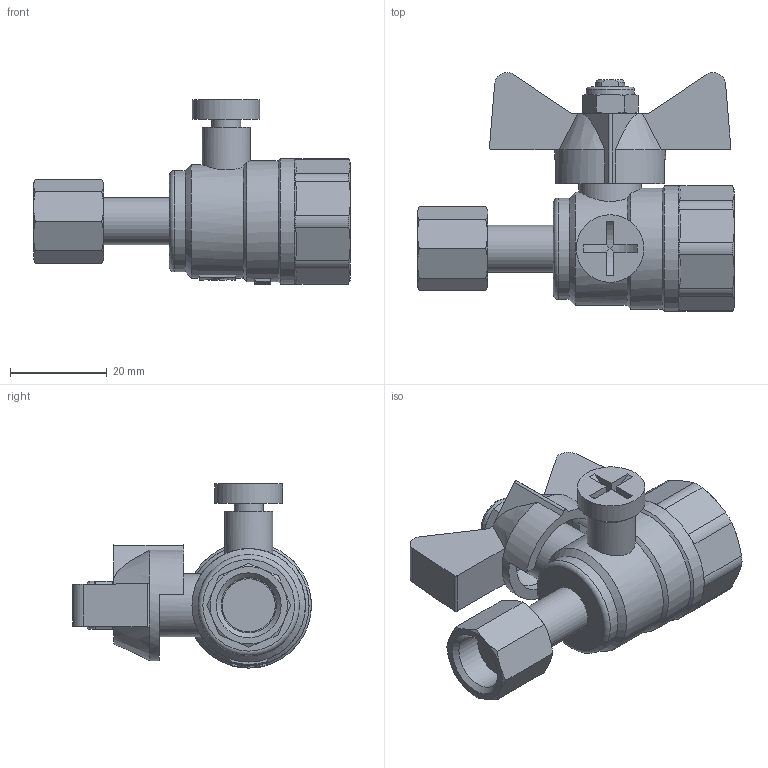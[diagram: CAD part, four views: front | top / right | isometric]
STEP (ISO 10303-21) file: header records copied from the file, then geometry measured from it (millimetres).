
FILE_DESCRIPTION(('STEP AP203'), '1');
FILE_NAME('VT.807.N.0402', '', ('UNSPECIFIED'), ('UNSPECIFIED'), 'C3D Converter', 'C3D Toolkit', '');
FILE_SCHEMA(('CONFIG_CONTROL_DESIGN'));
Length unit declared in the file: millimetre
Products named in the file (1): ВР.491816.039.000 СБ
Bounding box: 65.65 x 49.5 x 38.14 mm (x, y, z)
Volume: 25978.6 mm3; surface area: 11673.6 mm2
Topology: 3 solids, 7 shells, 270 faces, 664 edges, 425 vertices
Faces by surface type: plane 120, cylinder 56, cone 50, extrusion 40, torus 4
Full cylindrical faces by diameter (mm): 6 x1, 8 x1, 9.7 x2, 9.8 x1, 10 x2, 11 x1, 11.445 x1, 13 x1, 14 x1, 18.5 x1, 18.632 x1, 21 x1, 23.5 x1, 25 x1, 26 x1
Entity records: 12193 total; most frequent: CARTESIAN_POINT 6336, ORIENTED_EDGE 1250, DIRECTION 1035, EDGE_CURVE 625, VERTEX_POINT 422, AXIS2_PLACEMENT_3D 381, EDGE_LOOP 319, FACE_BOUND 275
